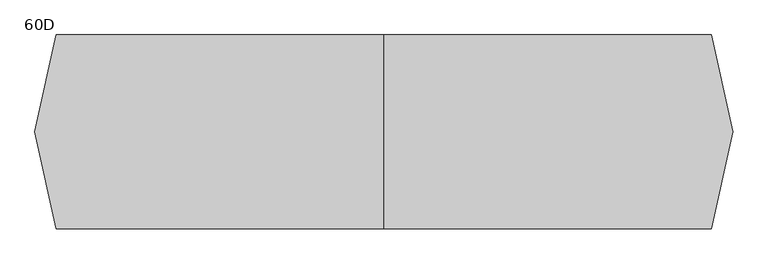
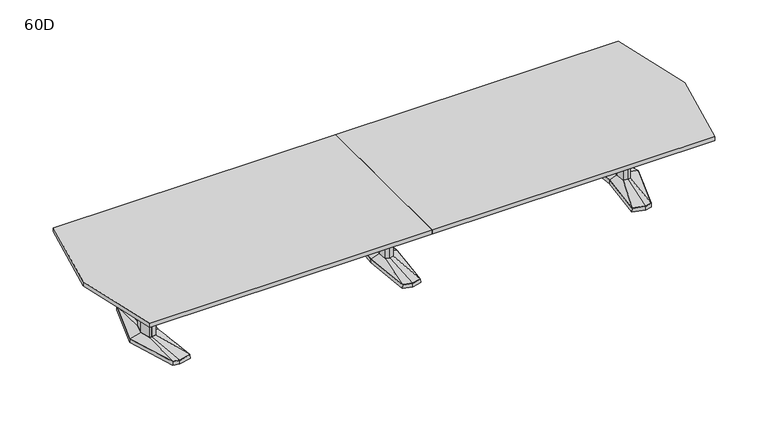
"""IFC4 building model written with IfcOpenShell, lengths in millimetres: furniture geometry, Coalesse_AM_Table_Conference_ETable2_Faceted_18ft_AluminiumBase : 60D."""

from ifc_helpers import new_model, si_unit, frame, origin, place, context, project, spatial, polyline, outline, extrude, faceted_brep, source, transform, mapped, element, save
from ifc_brep_helpers import plane_surface, spline_surface, advanced_brep


def furniture_60d_94475512(model_context):
    return source(origin(), model_context, "Body", "SolidModel", [
        faceted_brep([(-81.2333791, -433.8053819, 38.1), (0.0, -455.556576, 38.1), (81.2333791, -433.8053819, 38.1), (119.0564774, 0.0, 38.1), (81.2333791, 433.8053819, 38.1), (0.0, 455.556576, 38.1), (-81.2333791, 433.8053819, 38.1), (-119.0564774, 0.0, 38.1), (-82.7182795, -435.0512063, 3.175), (-120.65, 0.0, 3.175), (-82.7182795, 435.0512063, 3.175), (0.0, 457.2, 3.175), (82.7182795, 435.0512063, 3.175), (120.65, 0.0, 3.175), (82.7182795, -435.0512063, 3.175), (0.0, -457.2, 3.175), (0.0, 429.2617927, 3.175), (-77.9676806, 408.3850278, 3.175), (-74.7019821, 382.9646737, 3.175), (0.0, 402.9670094, 3.175), (74.7019821, 382.9646737, 3.175), (77.9676806, 408.3850278, 3.175), (0.0, -429.2617927, 3.175), (77.9676806, -408.3850278, 3.175), (74.7019821, -382.9646737, 3.175), (0.0, -402.9670094, 3.175), (-74.7019821, -382.9646737, 3.175), (-77.9676806, -408.3850278, 3.175), (-71.8574262, 114.6326257, 3.175), (-82.5426076, 0.0, 3.175), (-71.8574262, -114.6326257, 3.175), (0.0, -133.8761372, 3.175), (71.8574262, -114.6326257, 3.175), (82.5426076, 0.0, 3.175), (71.8574262, 114.6326257, 3.175), (0.0, 133.8761372, 3.175), (0.0, 429.2617927, 0.0), (77.9676806, 408.3850278, 0.0), (74.7019821, 382.9646737, 0.0), (0.0, 402.9670094, 0.0), (-74.7019821, 382.9646737, 0.0), (-77.9676806, 408.3850278, 0.0), (0.0, -429.2617927, 0.0), (-77.9676806, -408.3850278, 0.0), (-74.7019821, -382.9646737, 0.0), (0.0, -402.9670094, 0.0), (74.7019821, -382.9646737, 0.0), (77.9676806, -408.3850278, 0.0), (-71.8574262, 114.6326257, 0.0), (0.0, 133.8761372, 0.0), (71.8574262, 114.6326257, 0.0), (82.5426076, 0.0, 0.0), (71.8574262, -114.6326257, 0.0), (0.0, -133.8761372, 0.0), (-71.8574262, -114.6326257, 0.0), (-82.5426076, 0.0, 0.0)], [[[0, 1, 2, 3, 4, 5, 6, 7]], [[8, 9, 10, 11, 12, 13, 14, 15], [16, 17, 18, 19, 20, 21], [22, 23, 24, 25, 26, 27], [28, 29, 30, 31, 32, 33, 34, 35]], [[1, 0, 8, 15]], [[2, 1, 15, 14]], [[3, 2, 14, 13]], [[4, 3, 13, 12]], [[5, 4, 12, 11]], [[6, 5, 11, 10]], [[7, 6, 10, 9]], [[0, 7, 9, 8]], [[36, 37, 38, 39, 40, 41]], [[42, 43, 44, 45, 46, 47]], [[48, 49, 50, 51, 52, 53, 54, 55]], [[36, 41, 17, 16]], [[41, 40, 18, 17]], [[40, 39, 19, 18]], [[39, 38, 20, 19]], [[38, 37, 21, 20]], [[37, 36, 16, 21]], [[42, 47, 23, 22]], [[47, 46, 24, 23]], [[46, 45, 25, 24]], [[45, 44, 26, 25]], [[44, 43, 27, 26]], [[43, 42, 22, 27]], [[48, 55, 29, 28]], [[55, 54, 30, 29]], [[54, 53, 31, 30]], [[53, 52, 32, 31]], [[52, 51, 33, 32]], [[51, 50, 34, 33]], [[50, 49, 35, 34]], [[49, 48, 28, 35]]]),
        faceted_brep([(-36.3832834, 84.6900825, 698.5), (-44.2774487, 0.0, 698.5), (-36.3832834, -84.6900825, 698.5), (0.0, -94.4335728, 698.5), (36.3832834, -84.6900825, 698.5), (44.2774487, 0.0, 698.5), (36.3832834, 84.6900825, 698.5), (0.0, 94.4335728, 698.5), (-36.3832834, 84.6900825, 63.5), (0.0, 94.4335728, 63.5), (36.3832834, 84.6900825, 63.5), (44.2774487, 0.0, 63.5), (36.3832834, -84.6900825, 63.5), (0.0, -94.4335728, 63.5), (-36.3832834, -84.6900825, 63.5), (-44.2774487, 0.0, 63.5)], [[[0, 1, 2, 3, 4, 5, 6, 7]], [[8, 9, 10, 11, 12, 13, 14, 15]], [[1, 0, 8, 15]], [[2, 1, 15, 14]], [[3, 2, 14, 13]], [[4, 3, 13, 12]], [[5, 4, 12, 11]], [[6, 5, 11, 10]], [[7, 6, 10, 9]], [[0, 7, 9, 8]]]),
        advanced_brep(
        [(-36.3832834, 84.6900825, 63.5), (-44.2774487, 0.0, 63.5), (-36.3832834, -84.6900825, 63.5), (0.0, -94.4335728, 63.5), (36.3832834, -84.6900825, 63.5), (44.2774487, 0.0, 63.5), (36.3832834, 84.6900825, 63.5), (0.0, 94.4335728, 63.5), (-81.2333791, 433.8053819, 38.1), (0.0, 455.556576, 38.1), (81.2333791, 433.8053819, 38.1), (119.0564774, 0.0, 38.1), (81.2333791, -433.8053819, 38.1), (0.0, -455.556576, 38.1), (-81.2333791, -433.8053819, 38.1), (-119.0564774, 0.0, 38.1)],
        [
            (0, 1),
            (1, 2),
            (2, 3),
            (3, 4),
            (4, 5),
            (5, 6),
            (6, 7),
            (7, 0),
            (8, 9),
            (9, 10),
            (10, 11),
            (11, 12),
            (12, 13),
            (13, 14),
            (14, 15),
            (15, 8),
            (15, 1),
            (0, 8),
            (14, 2),
            (13, 3),
            (12, 4),
            (11, 5),
            (10, 6),
            (9, 7),
        ],
        [
            plane_surface(frame((0.0, 0.0, 63.5), z_axis=(0.0, 0.0, 1.0000000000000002), x_axis=(-0.9659615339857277, -0.25868574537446, 0.0))),
            plane_surface(frame((0.0, 0.0, 38.1), z_axis=(0.0, 0.0, -1.0000000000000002), x_axis=(-0.9659615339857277, -0.25868574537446, 0.0))),
            spline_surface(1, 1, [[(-81.2333791, 433.8053819, 38.1), (-36.3832834, 84.6900825, 63.5)], [(-119.0564774, 0.0, 38.1), (-44.2774487, 0.0, 63.5)]], [2, 2], [2, 2], [0.0, 1.0], [0.0, 1.0]),
            spline_surface(1, 1, [[(-119.0564774, 0.0, 38.1), (-44.2774487, 0.0, 63.5)], [(-81.2333791, -433.8053819, 38.1), (-36.3832834, -84.6900825, 63.5)]], [2, 2], [2, 2], [0.0, 1.0], [0.0, 1.0]),
            spline_surface(1, 1, [[(-81.2333791, -433.8053819, 38.1), (-36.3832834, -84.6900825, 63.5)], [(0.0, -455.556576, 38.1), (0.0, -94.4335728, 63.5)]], [2, 2], [2, 2], [0.0, 1.0], [0.0, 1.0]),
            spline_surface(1, 1, [[(0.0, -455.556576, 38.1), (0.0, -94.4335728, 63.5)], [(81.2333791, -433.8053819, 38.1), (36.3832834, -84.6900825, 63.5)]], [2, 2], [2, 2], [0.0, 1.0], [0.0, 1.0]),
            spline_surface(1, 1, [[(81.2333791, -433.8053819, 38.1), (36.3832834, -84.6900825, 63.5)], [(119.0564774, 0.0, 38.1), (44.2774487, 0.0, 63.5)]], [2, 2], [2, 2], [0.0, 1.0], [0.0, 1.0]),
            spline_surface(1, 1, [[(119.0564774, 0.0, 38.1), (44.2774487, 0.0, 63.5)], [(81.2333791, 433.8053819, 38.1), (36.3832834, 84.6900825, 63.5)]], [2, 2], [2, 2], [0.0, 1.0], [0.0, 1.0]),
            spline_surface(1, 1, [[(81.2333791, 433.8053819, 38.1), (36.3832834, 84.6900825, 63.5)], [(0.0, 455.556576, 38.1), (0.0, 94.4335728, 63.5)]], [2, 2], [2, 2], [0.0, 1.0], [0.0, 1.0]),
            spline_surface(1, 1, [[(0.0, 455.556576, 38.1), (0.0, 94.4335728, 63.5)], [(-81.2333791, 433.8053819, 38.1), (-36.3832834, 84.6900825, 63.5)]], [2, 2], [2, 2], [0.0, 1.0], [0.0, 1.0]),
        ],
        [
            (0, [[1, 2, 3, 4, 5, 6, 7, 8]]),
            (1, [[9, 10, 11, 12, 13, 14, 15, 16]]),
            (2, [[-16, 17, -1, 18]]),
            (3, [[-15, 19, -2, -17]]),
            (4, [[-14, 20, -3, -19]]),
            (5, [[-13, 21, -4, -20]]),
            (6, [[-12, 22, -5, -21]]),
            (7, [[-11, 23, -6, -22]]),
            (8, [[-10, 24, -7, -23]]),
            (9, [[-9, -18, -8, -24]]),
        ],
    ),
        faceted_brep([(2125.0306835, 455.5848221, 38.1), (2015.4531277, 426.2263816, 38.1), (2056.6163717, 0.0, 38.1), (2015.4531277, -426.2263816, 38.1), (2125.0306835, -455.5848221, 38.1), (2181.1570396, -440.5478297, 38.1), (2318.4684269, 0.0, 38.1), (2181.1570396, 440.5478297, 38.1), (2125.0306754, 457.2283104, 3.175), (2182.4124472, 441.8549756, 3.175), (2320.13125, 0.0, 3.175), (2182.4124472, -441.8549756, 3.175), (2125.0306754, -457.2283104, 3.175), (2013.74375, -427.4118891, 3.175), (2055.0214856, 0.0, 3.175), (2013.74375, 427.4118891, 3.175), (2128.620115, 428.3273875, 3.175), (2023.5718228, 402.1057253, 3.175), (2031.690518, 377.985069, 3.175), (2132.2095466, 401.0699529, 3.175), (2182.7691725, 387.524361, 3.175), (2181.9631061, 414.0360954, 3.175), (2128.620115, -428.3273875, 3.175), (2181.9631061, -414.0360954, 3.175), (2182.7691725, -387.524361, 3.175), (2132.2095466, -401.0699529, 3.175), (2031.690518, -377.985069, 3.175), (2023.5718228, -402.1057253, 3.175), (2255.2153621, 0.0, 3.175), (2222.9459611, 120.4193755, 3.175), (2174.2987222, 133.471665, 3.175), (2094.4180526, 119.4176561, 3.175), (2083.2868466, 0.0, 3.175), (2094.4180526, -119.4176561, 3.175), (2174.2987222, -133.471665, 3.175), (2222.9459611, -120.4193755, 3.175), (2128.620115, 428.3273875, 0.0), (2181.9631061, 414.0360954, 0.0), (2182.7691725, 387.524361, 0.0), (2132.2095466, 401.0699529, 0.0), (2031.690518, 377.985069, 0.0), (2023.5718228, 402.1057253, 0.0), (2128.620115, -428.3273875, 0.0), (2023.5718228, -402.1057253, 0.0), (2031.690518, -377.985069, 0.0), (2132.2095466, -401.0699529, 0.0), (2182.7691725, -387.524361, 0.0), (2181.9631061, -414.0360954, 0.0), (2255.2153621, 0.0, 0.0), (2222.9459611, -120.4193755, 0.0), (2174.2987222, -133.471665, 0.0), (2094.4180526, -119.4176561, 0.0), (2083.2868466, 0.0, 0.0), (2094.4180526, 119.4176561, 0.0), (2174.2987222, 133.471665, 0.0), (2222.9459611, 120.4193755, 0.0)], [[[0, 1, 2, 3, 4, 5, 6, 7]], [[8, 9, 10, 11, 12, 13, 14, 15], [16, 17, 18, 19, 20, 21], [22, 23, 24, 25, 26, 27], [28, 29, 30, 31, 32, 33, 34, 35]], [[7, 9, 8, 0]], [[6, 10, 9, 7]], [[5, 11, 10, 6]], [[4, 12, 11, 5]], [[3, 13, 12, 4]], [[2, 14, 13, 3]], [[1, 15, 14, 2]], [[0, 8, 15, 1]], [[36, 37, 38, 39, 40, 41]], [[42, 43, 44, 45, 46, 47]], [[48, 49, 50, 51, 52, 53, 54, 55]], [[36, 16, 21, 37]], [[37, 21, 20, 38]], [[38, 20, 19, 39]], [[39, 19, 18, 40]], [[40, 18, 17, 41]], [[41, 17, 16, 36]], [[42, 22, 27, 43]], [[43, 27, 26, 44]], [[44, 26, 25, 45]], [[45, 25, 24, 46]], [[46, 24, 23, 47]], [[47, 23, 22, 42]], [[48, 28, 35, 49]], [[49, 35, 34, 50]], [[50, 34, 33, 51]], [[51, 33, 32, 52]], [[52, 32, 31, 53]], [[53, 31, 30, 54]], [[54, 30, 29, 55]], [[55, 29, 28, 48]]]),
        faceted_brep([(2215.7710836, 0.0, 698.5), (2191.8358546, 89.3188359, 698.5), (2174.9824984, 93.8406728, 698.5), (2172.5826511, 94.4845635, 698.5), (2129.655146, 86.9320037, 698.5), (2121.5520056, 0.0, 698.5), (2129.655146, -86.9320037, 698.5), (2172.5826511, -94.4845635, 698.5), (2174.9824984, -93.8406728, 698.5), (2191.8358546, -89.3188359, 698.5), (2215.7710836, 0.0, 63.5), (2191.8358546, -89.3188359, 63.5), (2174.9824984, -93.8406728, 63.5), (2172.5826511, -94.4845635, 63.5), (2129.655146, -86.9320037, 63.5), (2121.5520056, 0.0, 63.5), (2129.655146, 86.9320037, 63.5), (2172.5826511, 94.4845635, 63.5), (2174.9824984, 93.8406728, 63.5), (2191.8358546, 89.3188359, 63.5)], [[[0, 1, 2, 3, 4, 5, 6, 7, 8, 9]], [[10, 11, 12, 13, 14, 15, 16, 17, 18, 19]], [[9, 11, 10, 0]], [[8, 12, 11, 9]], [[7, 13, 12, 8]], [[6, 14, 13, 7]], [[5, 15, 14, 6]], [[4, 16, 15, 5]], [[3, 17, 16, 4]], [[2, 18, 17, 3]], [[1, 19, 18, 2]], [[0, 10, 19, 1]]]),
        advanced_brep(
        [(2172.5826511, 94.4845635, 63.5), (2129.655146, 86.9320037, 63.5), (2121.5520056, 0.0, 63.5), (2129.655146, -86.9320037, 63.5), (2172.5826511, -94.4845635, 63.5), (2191.8358546, -89.3188359, 63.5), (2215.7710836, 0.0, 63.5), (2191.8358546, 89.3188359, 63.5), (2125.0306835, 455.5848221, 38.1), (2181.1570396, 440.5478297, 38.1), (2318.4684269, 0.0, 38.1), (2181.1570396, -440.5478297, 38.1), (2125.0306835, -455.5848221, 38.1), (2015.4531277, -426.2263816, 38.1), (2056.6163717, 0.0, 38.1), (2015.4531277, 426.2263816, 38.1)],
        [
            (0, 1),
            (1, 2),
            (2, 3),
            (3, 4),
            (4, 5),
            (5, 6),
            (6, 7),
            (7, 0),
            (8, 9),
            (9, 10),
            (10, 11),
            (11, 12),
            (12, 13),
            (13, 14),
            (14, 15),
            (15, 8),
            (8, 0),
            (7, 9),
            (6, 10),
            (5, 11),
            (4, 12),
            (3, 13),
            (2, 14),
            (1, 15),
        ],
        [
            plane_surface(frame((2165.6837991, 0.0, 63.5), z_axis=(0.0, 0.0, 1.0), x_axis=(-0.25884244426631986, -0.9659195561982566, 0.0))),
            plane_surface(frame((2127.2958125, 0.0, 38.1), z_axis=(0.0, 0.0, -1.0), x_axis=(-0.25884244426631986, -0.9659195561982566, 0.0))),
            spline_surface(1, 1, [[(2125.0306835, 455.5848221, 38.1), (2181.1570396, 440.5478297, 38.1)], [(2172.5826511, 94.4845635, 63.5), (2191.8358546, 89.3188359, 63.5)]], [2, 2], [2, 2], [0.0, 1.0], [0.0, 1.0]),
            spline_surface(1, 1, [[(2181.1570396, 440.5478297, 38.1), (2318.4684269, 0.0, 38.1)], [(2191.8358546, 89.3188359, 63.5), (2215.7710836, 0.0, 63.5)]], [2, 2], [2, 2], [0.0, 1.0], [0.0, 1.0]),
            spline_surface(1, 1, [[(2318.4684269, 0.0, 38.1), (2181.1570396, -440.5478297, 38.1)], [(2215.7710836, 0.0, 63.5), (2191.8358546, -89.3188359, 63.5)]], [2, 2], [2, 2], [0.0, 1.0], [0.0, 1.0]),
            spline_surface(1, 1, [[(2181.1570396, -440.5478297, 38.1), (2125.0306835, -455.5848221, 38.1)], [(2191.8358546, -89.3188359, 63.5), (2172.5826511, -94.4845635, 63.5)]], [2, 2], [2, 2], [0.0, 1.0], [0.0, 1.0]),
            spline_surface(1, 1, [[(2125.0306835, -455.5848221, 38.1), (2015.4531277, -426.2263816, 38.1)], [(2172.5826511, -94.4845635, 63.5), (2129.655146, -86.9320037, 63.5)]], [2, 2], [2, 2], [0.0, 1.0], [0.0, 1.0]),
            spline_surface(1, 1, [[(2015.4531277, -426.2263816, 38.1), (2056.6163717, 0.0, 38.1)], [(2129.655146, -86.9320037, 63.5), (2121.5520056, 0.0, 63.5)]], [2, 2], [2, 2], [0.0, 1.0], [0.0, 1.0]),
            spline_surface(1, 1, [[(2056.6163717, 0.0, 38.1), (2015.4531277, 426.2263816, 38.1)], [(2121.5520056, 0.0, 63.5), (2129.655146, 86.9320037, 63.5)]], [2, 2], [2, 2], [0.0, 1.0], [0.0, 1.0]),
            spline_surface(1, 1, [[(2015.4531277, 426.2263816, 38.1), (2125.0306835, 455.5848221, 38.1)], [(2129.655146, 86.9320037, 63.5), (2172.5826511, 94.4845635, 63.5)]], [2, 2], [2, 2], [0.0, 1.0], [0.0, 1.0]),
        ],
        [
            (0, [[1, 2, 3, 4, 5, 6, 7, 8]]),
            (1, [[9, 10, 11, 12, 13, 14, 15, 16]]),
            (2, [[17, -8, 18, -9]]),
            (3, [[-18, -7, 19, -10]]),
            (4, [[-19, -6, 20, -11]]),
            (5, [[-20, -5, 21, -12]]),
            (6, [[-21, -4, 22, -13]]),
            (7, [[-22, -3, 23, -14]]),
            (8, [[-23, -2, 24, -15]]),
            (9, [[-24, -1, -17, -16]]),
        ],
    ),
        faceted_brep([(-2125.0306835, 455.5848221, 38.1), (-2181.1570396, 440.5478297, 38.1), (-2318.4684269, 0.0, 38.1), (-2181.1570396, -440.5478297, 38.1), (-2125.0306835, -455.5848221, 38.1), (-2015.4531277, -426.2263816, 38.1), (-2056.6163717, 0.0, 38.1), (-2015.4531277, 426.2263816, 38.1), (-2125.0306754, 457.2283104, 3.175), (-2013.74375, 427.4118891, 3.175), (-2055.0214856, 0.0, 3.175), (-2013.74375, -427.4118891, 3.175), (-2125.0306754, -457.2283104, 3.175), (-2182.4124472, -441.8549756, 3.175), (-2320.13125, 0.0, 3.175), (-2182.4124472, 441.8549756, 3.175), (-2128.620115, 428.3273875, 3.175), (-2181.9631061, 414.0360954, 3.175), (-2182.7691725, 387.524361, 3.175), (-2132.2095466, 401.0699529, 3.175), (-2031.690518, 377.985069, 3.175), (-2023.5718228, 402.1057253, 3.175), (-2128.620115, -428.3273875, 3.175), (-2023.5718228, -402.1057253, 3.175), (-2031.690518, -377.985069, 3.175), (-2132.2095466, -401.0699529, 3.175), (-2182.7691725, -387.524361, 3.175), (-2181.9631061, -414.0360954, 3.175), (-2255.2153621, 0.0, 3.175), (-2222.9459611, -120.4193755, 3.175), (-2174.2987222, -133.471665, 3.175), (-2094.4180526, -119.4176561, 3.175), (-2083.2868466, 0.0, 3.175), (-2094.4180526, 119.4176561, 3.175), (-2174.2987222, 133.471665, 3.175), (-2222.9459611, 120.4193755, 3.175), (-2128.620115, 428.3273875, 0.0), (-2023.5718228, 402.1057253, 0.0), (-2031.690518, 377.985069, 0.0), (-2132.2095466, 401.0699529, 0.0), (-2182.7691725, 387.524361, 0.0), (-2181.9631061, 414.0360954, 0.0), (-2128.620115, -428.3273875, 0.0), (-2181.9631061, -414.0360954, 0.0), (-2182.7691725, -387.524361, 0.0), (-2132.2095466, -401.0699529, 0.0), (-2031.690518, -377.985069, 0.0), (-2023.5718228, -402.1057253, 0.0), (-2255.2153621, 0.0, 0.0), (-2222.9459611, 120.4193755, 0.0), (-2174.2987222, 133.471665, 0.0), (-2094.4180526, 119.4176561, 0.0), (-2083.2868466, 0.0, 0.0), (-2094.4180526, -119.4176561, 0.0), (-2174.2987222, -133.471665, 0.0), (-2222.9459611, -120.4193755, 0.0)], [[[0, 1, 2, 3, 4, 5, 6, 7]], [[8, 9, 10, 11, 12, 13, 14, 15], [16, 17, 18, 19, 20, 21], [22, 23, 24, 25, 26, 27], [28, 29, 30, 31, 32, 33, 34, 35]], [[1, 0, 8, 15]], [[2, 1, 15, 14]], [[3, 2, 14, 13]], [[4, 3, 13, 12]], [[5, 4, 12, 11]], [[6, 5, 11, 10]], [[7, 6, 10, 9]], [[0, 7, 9, 8]], [[36, 37, 38, 39, 40, 41]], [[42, 43, 44, 45, 46, 47]], [[48, 49, 50, 51, 52, 53, 54, 55]], [[36, 41, 17, 16]], [[41, 40, 18, 17]], [[40, 39, 19, 18]], [[39, 38, 20, 19]], [[38, 37, 21, 20]], [[37, 36, 16, 21]], [[42, 47, 23, 22]], [[47, 46, 24, 23]], [[46, 45, 25, 24]], [[45, 44, 26, 25]], [[44, 43, 27, 26]], [[43, 42, 22, 27]], [[48, 55, 29, 28]], [[55, 54, 30, 29]], [[54, 53, 31, 30]], [[53, 52, 32, 31]], [[52, 51, 33, 32]], [[51, 50, 34, 33]], [[50, 49, 35, 34]], [[49, 48, 28, 35]]]),
        faceted_brep([(-2215.7710836, 0.0, 698.5), (-2191.8358546, -89.3188359, 698.5), (-2174.9824984, -93.8406728, 698.5), (-2172.5826511, -94.4845635, 698.5), (-2129.655146, -86.9320037, 698.5), (-2121.5520056, 0.0, 698.5), (-2129.655146, 86.9320037, 698.5), (-2172.5826511, 94.4845635, 698.5), (-2174.9824984, 93.8406728, 698.5), (-2191.8358546, 89.3188359, 698.5), (-2215.7710836, 0.0, 63.5), (-2191.8358546, 89.3188359, 63.5), (-2174.9824984, 93.8406728, 63.5), (-2172.5826511, 94.4845635, 63.5), (-2129.655146, 86.9320037, 63.5), (-2121.5520056, 0.0, 63.5), (-2129.655146, -86.9320037, 63.5), (-2172.5826511, -94.4845635, 63.5), (-2174.9824984, -93.8406728, 63.5), (-2191.8358546, -89.3188359, 63.5)], [[[0, 1, 2, 3, 4, 5, 6, 7, 8, 9]], [[10, 11, 12, 13, 14, 15, 16, 17, 18, 19]], [[1, 0, 10, 19]], [[2, 1, 19, 18]], [[3, 2, 18, 17]], [[4, 3, 17, 16]], [[5, 4, 16, 15]], [[6, 5, 15, 14]], [[7, 6, 14, 13]], [[8, 7, 13, 12]], [[9, 8, 12, 11]], [[0, 9, 11, 10]]]),
        advanced_brep(
        [(-2172.5826511, 94.4845635, 63.5), (-2191.8358546, 89.3188359, 63.5), (-2215.7710836, 0.0, 63.5), (-2191.8358546, -89.3188359, 63.5), (-2172.5826511, -94.4845635, 63.5), (-2129.655146, -86.9320037, 63.5), (-2121.5520056, 0.0, 63.5), (-2129.655146, 86.9320037, 63.5), (-2125.0306835, 455.5848221, 38.1), (-2015.4531277, 426.2263816, 38.1), (-2056.6163717, 0.0, 38.1), (-2015.4531277, -426.2263816, 38.1), (-2125.0306835, -455.5848221, 38.1), (-2181.1570396, -440.5478297, 38.1), (-2318.4684269, 0.0, 38.1), (-2181.1570396, 440.5478297, 38.1)],
        [
            (0, 1),
            (1, 2),
            (2, 3),
            (3, 4),
            (4, 5),
            (5, 6),
            (6, 7),
            (7, 0),
            (8, 9),
            (9, 10),
            (10, 11),
            (11, 12),
            (12, 13),
            (13, 14),
            (14, 15),
            (15, 8),
            (15, 1),
            (0, 8),
            (14, 2),
            (13, 3),
            (12, 4),
            (11, 5),
            (10, 6),
            (9, 7),
        ],
        [
            plane_surface(frame((-2165.6837991, 0.0, 63.5), z_axis=(0.0, 0.0, 1.0), x_axis=(0.25884244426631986, -0.9659195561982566, 0.0))),
            plane_surface(frame((-2127.2958125, 0.0, 38.1), z_axis=(0.0, 0.0, -1.0), x_axis=(0.25884244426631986, -0.9659195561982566, 0.0))),
            spline_surface(1, 1, [[(-2125.0306835, 455.5848221, 38.1), (-2172.5826511, 94.4845635, 63.5)], [(-2181.1570396, 440.5478297, 38.1), (-2191.8358546, 89.3188359, 63.5)]], [2, 2], [2, 2], [0.0, 1.0], [0.0, 1.0]),
            spline_surface(1, 1, [[(-2181.1570396, 440.5478297, 38.1), (-2191.8358546, 89.3188359, 63.5)], [(-2318.4684269, 0.0, 38.1), (-2215.7710836, 0.0, 63.5)]], [2, 2], [2, 2], [0.0, 1.0], [0.0, 1.0]),
            spline_surface(1, 1, [[(-2318.4684269, 0.0, 38.1), (-2215.7710836, 0.0, 63.5)], [(-2181.1570396, -440.5478297, 38.1), (-2191.8358546, -89.3188359, 63.5)]], [2, 2], [2, 2], [0.0, 1.0], [0.0, 1.0]),
            spline_surface(1, 1, [[(-2181.1570396, -440.5478297, 38.1), (-2191.8358546, -89.3188359, 63.5)], [(-2125.0306835, -455.5848221, 38.1), (-2172.5826511, -94.4845635, 63.5)]], [2, 2], [2, 2], [0.0, 1.0], [0.0, 1.0]),
            spline_surface(1, 1, [[(-2125.0306835, -455.5848221, 38.1), (-2172.5826511, -94.4845635, 63.5)], [(-2015.4531277, -426.2263816, 38.1), (-2129.655146, -86.9320037, 63.5)]], [2, 2], [2, 2], [0.0, 1.0], [0.0, 1.0]),
            spline_surface(1, 1, [[(-2015.4531277, -426.2263816, 38.1), (-2129.655146, -86.9320037, 63.5)], [(-2056.6163717, 0.0, 38.1), (-2121.5520056, 0.0, 63.5)]], [2, 2], [2, 2], [0.0, 1.0], [0.0, 1.0]),
            spline_surface(1, 1, [[(-2056.6163717, 0.0, 38.1), (-2121.5520056, 0.0, 63.5)], [(-2015.4531277, 426.2263816, 38.1), (-2129.655146, 86.9320037, 63.5)]], [2, 2], [2, 2], [0.0, 1.0], [0.0, 1.0]),
            spline_surface(1, 1, [[(-2015.4531277, 426.2263816, 38.1), (-2129.655146, 86.9320037, 63.5)], [(-2125.0306835, 455.5848221, 38.1), (-2172.5826511, 94.4845635, 63.5)]], [2, 2], [2, 2], [0.0, 1.0], [0.0, 1.0]),
        ],
        [
            (0, [[1, 2, 3, 4, 5, 6, 7, 8]]),
            (1, [[9, 10, 11, 12, 13, 14, 15, 16]]),
            (2, [[-16, 17, -1, 18]]),
            (3, [[-15, 19, -2, -17]]),
            (4, [[-14, 20, -3, -19]]),
            (5, [[-13, 21, -4, -20]]),
            (6, [[-12, 22, -5, -21]]),
            (7, [[-11, 23, -6, -22]]),
            (8, [[-10, 24, -7, -23]]),
            (9, [[-9, -18, -8, -24]]),
        ],
    ),
        extrude(outline(polyline([(96.8375, 698.5), (103.1875, 698.5), (103.1875, 476.25), (-103.1875, 476.25), (-103.1875, 698.5), (-96.8375, 698.5), (-96.8375, 482.6), (96.8375, 482.6), (96.8375, 698.5)])), frame((44.2774487, 0.0, 0.0), z_axis=(1.0, 0.0, 0.0), x_axis=(0.0, 1.0, 0.0)), (0.0, 0.0, 1.0), 2077.4163013),
        extrude(outline(polyline([(2574.2677242, 762.0), (2743.2, 0.0), (2574.2677242, -762.0), (0.0, -762.0), (0.0, 762.0), (2574.2677242, 762.0)])), frame((0.0, 0.0, 698.5), z_axis=(0.0, 0.0, 1.0), x_axis=(1.0, 0.0, 0.0)), (0.0, 0.0, 1.0), 38.1),
        extrude(outline(polyline([(0.0, -762.0), (-2574.2677242, -762.0), (-2743.2, 0.0), (-2574.2677242, 762.0), (0.0, 762.0), (0.0, -762.0)])), frame((0.0, 0.0, 698.5), z_axis=(0.0, 0.0, 1.0), x_axis=(1.0, 0.0, 0.0)), (0.0, 0.0, 1.0), 38.1),
        extrude(outline(polyline([(96.8375, 698.5), (103.1875, 698.5), (103.1875, 476.25), (-103.1875, 476.25), (-103.1875, 698.5), (-96.8375, 698.5), (-96.8375, 482.6), (96.8375, 482.6), (96.8375, 698.5)])), frame((-2121.69375, 0.0, 0.0), z_axis=(1.0, 0.0, 0.0), x_axis=(0.0, 1.0, 0.0)), (0.0, 0.0, 1.0), 2077.4163013),
    ])


if __name__ == "__main__":
    model = new_model("IFC4")
    model_context = context("Model", 3, world=origin())
    ifc_project = project(units=[si_unit("LENGTHUNIT", "METRE", prefix="MILLI")], contexts=[model_context])
    site = spatial("IfcSite", under=ifc_project)
    building = spatial("IfcBuilding", under=site)
    placement = place(None, origin())
    furniture_60d_shape = furniture_60d_94475512(model_context)
    element("IfcFurniture", 1, ObjectType="Coalesse_AM_Table_Conference_ETable2_Faceted_18ft_AluminiumBase : 60D", at=placement, inside=building, context=model_context, shape_type="MappedRepresentation", body=[
        mapped(furniture_60d_shape, transform((0.0, 0.0, 0.0), x_axis=(1.0, 0.0, 0.0), y_axis=(0.0, 1.0, 0.0), z_axis=(0.0, 0.0, 1.0))),
    ])
    save(model, "model.ifc")
